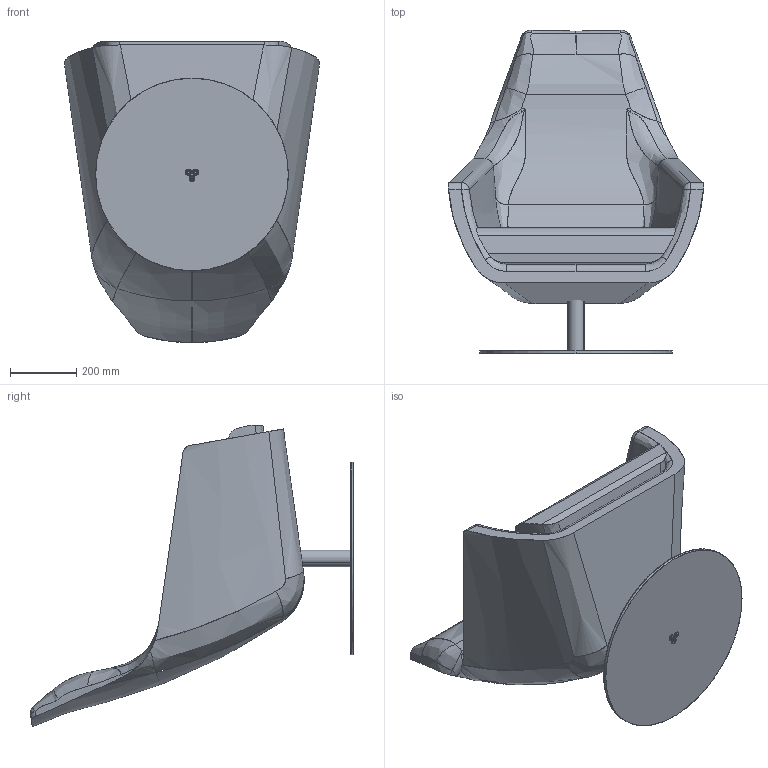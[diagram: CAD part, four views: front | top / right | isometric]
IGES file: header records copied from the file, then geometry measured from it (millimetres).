
Start section: SolidWorks IGES file using analytic representation for surfaces
Global section: file name: G:\Product Info\Enzo\3d\igs\Enzo draaivoet.IGS; native system: SolidWorks 2015; preprocessor: SolidWorks 2015; author: remko; date: 151223.134459; units: millimetre
Bounding box: 768.56 x 974.84 x 908.33 mm (x, y, z)
Surface area: 3887728.3 mm2 (no closed solid volume)
Topology: 0 solids, 0 shells, 314 faces, 5235 edges, 5227 vertices
Faces by surface type: bspline 174, revolution 140
